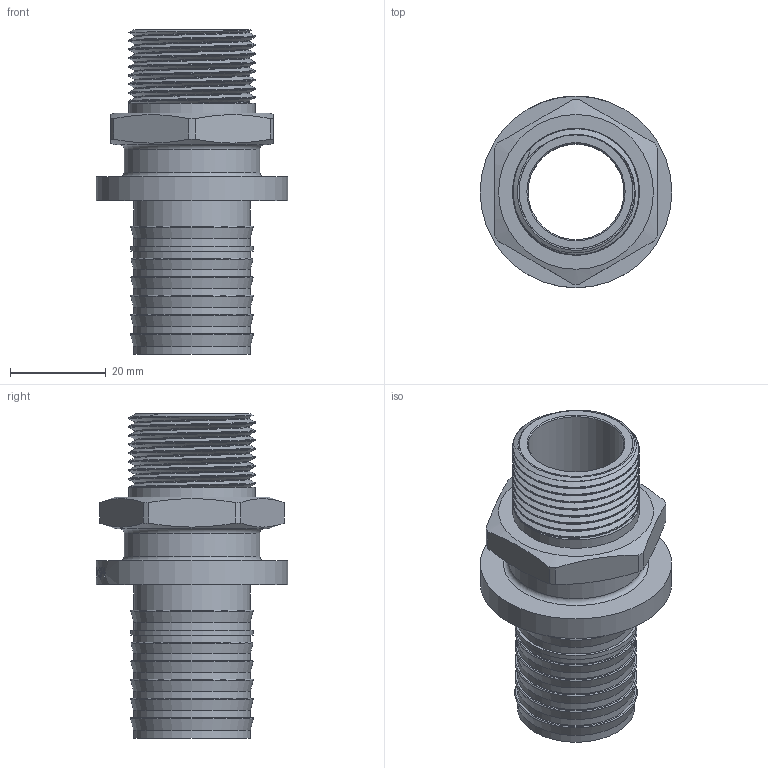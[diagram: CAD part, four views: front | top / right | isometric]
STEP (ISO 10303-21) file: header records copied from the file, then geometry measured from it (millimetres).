
FILE_DESCRIPTION(/* description */ (''),/* implementation_level */ '2;1');
FILE_NAME(/* name */ 'C:\Users\Doom\Desktop\Фадотех\Натяжка\SFM18_NEW 32x0.75M 29.05.2020\SFM18_NEW 32x0.75M 29.05.2020.stp',/* time_stamp */ '2022-07-25T14:45:24+03:00',/* author */ ('Doom'),/* organization */ (''),/* preprocessor_version */ 'ST-DEVELOPER v18',/* originating_system */ 'Autodesk Inventor 2020',/* authorisation */ '');
FILE_SCHEMA (('AUTOMOTIVE_DESIGN { 1 0 10303 214 3 1 1 }'));
Length unit declared in the file: millimetre
Products named in the file (1): SFM18_NEW 32x0.75M  29.05.2020
Bounding box: 40 x 40 x 67.7 mm (x, y, z)
Volume: 19687.8 mm3; surface area: 16224.6 mm2
Topology: 2 solids, 2 shells, 206 faces, 575 edges, 395 vertices
Faces by surface type: bspline 76, plane 72, cylinder 39, cone 11, torus 8
Full cylindrical faces by diameter (mm): 20 x1, 23.75 x2, 24.357 x2, 24.4 x6, 25.5 x1, 26.44 x8, 28.3 x1, 40 x1
Entity records: 12967 total; most frequent: CARTESIAN_POINT 8017, ORIENTED_EDGE 1150, DIRECTION 822, EDGE_CURVE 575, VERTEX_POINT 395, AXIS2_PLACEMENT_3D 307, EDGE_LOOP 232, LINE 208
